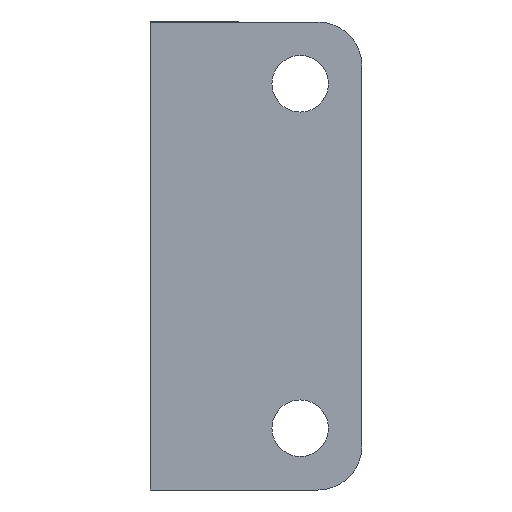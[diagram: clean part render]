
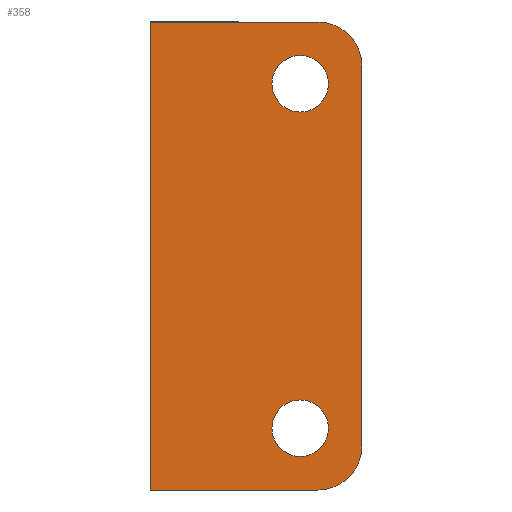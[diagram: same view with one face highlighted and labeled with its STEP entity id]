
A CAD part, front view. The second image highlights one B-rep face of the part: STEP entity #358.
In plain terms, the highlighted planar face has unit normal (0, -1, 0).
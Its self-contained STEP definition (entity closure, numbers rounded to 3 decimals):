
#17 = DIRECTION ( 'NONE',  ( 0., 1., 0. ) ) ;
#24 = CARTESIAN_POINT ( 'NONE',  ( 12., -149.75, 49.2 ) ) ;
#26 = CARTESIAN_POINT ( 'NONE',  ( 12., -149.75, 46. ) ) ;
#41 = ORIENTED_EDGE ( 'NONE', *, *, #364, .T. ) ;
#44 = ORIENTED_EDGE ( 'NONE', *, *, #469, .T. ) ;
#66 = LINE ( 'NONE', #170, #202 ) ;
#72 = CIRCLE ( 'NONE', #448, 3.2 ) ;
#78 = CARTESIAN_POINT ( 'NONE',  ( 12., -149.75, 46. ) ) ;
#91 = DIRECTION ( 'NONE',  ( -1., 0., 0. ) ) ;
#104 = FACE_BOUND ( 'NONE', #707, .T. ) ;
#114 = EDGE_CURVE ( 'NONE', #463, #806, #66, .T. ) ;
#122 = DIRECTION ( 'NONE',  ( 0., 0., -1. ) ) ;
#126 = CIRCLE ( 'NONE', #199, 5. ) ;
#127 = LINE ( 'NONE', #702, #373 ) ;
#128 = AXIS2_PLACEMENT_3D ( 'NONE', #26, #434, #838 ) ;
#133 = CARTESIAN_POINT ( 'NONE',  ( 12., -149.75, 7. ) ) ;
#170 = CARTESIAN_POINT ( 'NONE',  ( 19., -149.75, 0. ) ) ;
#175 = EDGE_CURVE ( 'NONE', #212, #814, #284, .T. ) ;
#177 = ORIENTED_EDGE ( 'NONE', *, *, #513, .T. ) ;
#190 = CARTESIAN_POINT ( 'NONE',  ( -5., -149.75, 53. ) ) ;
#193 = VERTEX_POINT ( 'NONE', #631 ) ;
#197 = CARTESIAN_POINT ( 'NONE',  ( -5., -149.75, 53. ) ) ;
#199 = AXIS2_PLACEMENT_3D ( 'NONE', #472, #883, #404 ) ;
#200 = CARTESIAN_POINT ( 'NONE',  ( 5., -149.75, 53. ) ) ;
#202 = VECTOR ( 'NONE', #230, 1000. ) ;
#208 = EDGE_LOOP ( 'NONE', ( #413, #177, #240, #500, #44, #473 ) ) ;
#212 = VERTEX_POINT ( 'NONE', #24 ) ;
#230 = DIRECTION ( 'NONE',  ( 0., 0., -1. ) ) ;
#235 = EDGE_CURVE ( 'NONE', #664, #238, #72, .T. ) ;
#237 = CARTESIAN_POINT ( 'NONE',  ( 12., -149.75, 3.8 ) ) ;
#238 = VERTEX_POINT ( 'NONE', #427 ) ;
#240 = ORIENTED_EDGE ( 'NONE', *, *, #114, .F. ) ;
#256 = DIRECTION ( 'NONE',  ( 0., -1., 0. ) ) ;
#260 = DIRECTION ( 'NONE',  ( 0., 0., 1. ) ) ;
#263 = EDGE_CURVE ( 'NONE', #814, #212, #759, .T. ) ;
#284 = CIRCLE ( 'NONE', #128, 3.2 ) ;
#292 = VECTOR ( 'NONE', #325, 1000. ) ;
#325 = DIRECTION ( 'NONE',  ( -1., 0., 0. ) ) ;
#335 = DIRECTION ( 'NONE',  ( 0., 0., 1. ) ) ;
#337 = AXIS2_PLACEMENT_3D ( 'NONE', #133, #541, #260 ) ;
#353 = DIRECTION ( 'NONE',  ( 0., 0., 1. ) ) ;
#356 = EDGE_CURVE ( 'NONE', #463, #193, #126, .T. ) ;
#358 = ADVANCED_FACE ( 'NONE', ( #685, #104, #465 ), #544, .F. ) ;
#364 = EDGE_CURVE ( 'NONE', #238, #664, #790, .T. ) ;
#369 = VERTEX_POINT ( 'NONE', #197 ) ;
#372 = VECTOR ( 'NONE', #122, 1000. ) ;
#373 = VECTOR ( 'NONE', #91, 1000. ) ;
#389 = AXIS2_PLACEMENT_3D ( 'NONE', #200, #815, #335 ) ;
#390 = CARTESIAN_POINT ( 'NONE',  ( -5., -149.75, 0. ) ) ;
#397 = CARTESIAN_POINT ( 'NONE',  ( 5., -149.75, 53. ) ) ;
#404 = DIRECTION ( 'NONE',  ( 0., 0., 1. ) ) ;
#413 = ORIENTED_EDGE ( 'NONE', *, *, #835, .F. ) ;
#422 = DIRECTION ( 'NONE',  ( 0., 0., 1. ) ) ;
#424 = CARTESIAN_POINT ( 'NONE',  ( 12., -149.75, 7. ) ) ;
#427 = CARTESIAN_POINT ( 'NONE',  ( 12., -149.75, 10.2 ) ) ;
#434 = DIRECTION ( 'NONE',  ( 0., 1., 0. ) ) ;
#435 = CARTESIAN_POINT ( 'NONE',  ( 12., -149.75, 42.8 ) ) ;
#448 = AXIS2_PLACEMENT_3D ( 'NONE', #424, #831, #353 ) ;
#463 = VERTEX_POINT ( 'NONE', #880 ) ;
#465 = FACE_OUTER_BOUND ( 'NONE', #208, .T. ) ;
#469 = EDGE_CURVE ( 'NONE', #193, #369, #866, .T. ) ;
#472 = CARTESIAN_POINT ( 'NONE',  ( 14., -149.75, 48. ) ) ;
#473 = ORIENTED_EDGE ( 'NONE', *, *, #542, .T. ) ;
#491 = AXIS2_PLACEMENT_3D ( 'NONE', #78, #17, #422 ) ;
#500 = ORIENTED_EDGE ( 'NONE', *, *, #356, .T. ) ;
#501 = CARTESIAN_POINT ( 'NONE',  ( 19., -149.75, 5. ) ) ;
#513 = EDGE_CURVE ( 'NONE', #574, #806, #820, .T. ) ;
#524 = AXIS2_PLACEMENT_3D ( 'NONE', #737, #256, #663 ) ;
#541 = DIRECTION ( 'NONE',  ( 0., 1., 0. ) ) ;
#542 = EDGE_CURVE ( 'NONE', #369, #569, #777, .T. ) ;
#544 = PLANE ( 'NONE',  #389 ) ;
#549 = ORIENTED_EDGE ( 'NONE', *, *, #235, .T. ) ;
#569 = VERTEX_POINT ( 'NONE', #390 ) ;
#574 = VERTEX_POINT ( 'NONE', #797 ) ;
#581 = ORIENTED_EDGE ( 'NONE', *, *, #175, .T. ) ;
#617 = ORIENTED_EDGE ( 'NONE', *, *, #263, .T. ) ;
#631 = CARTESIAN_POINT ( 'NONE',  ( 14., -149.75, 53. ) ) ;
#663 = DIRECTION ( 'NONE',  ( 0., 0., 1. ) ) ;
#664 = VERTEX_POINT ( 'NONE', #237 ) ;
#685 = FACE_BOUND ( 'NONE', #822, .T. ) ;
#702 = CARTESIAN_POINT ( 'NONE',  ( 5., -149.75, 0. ) ) ;
#707 = EDGE_LOOP ( 'NONE', ( #581, #617 ) ) ;
#737 = CARTESIAN_POINT ( 'NONE',  ( 14., -149.75, 5. ) ) ;
#759 = CIRCLE ( 'NONE', #491, 3.2 ) ;
#777 = LINE ( 'NONE', #190, #372 ) ;
#790 = CIRCLE ( 'NONE', #337, 3.2 ) ;
#797 = CARTESIAN_POINT ( 'NONE',  ( 14., -149.75, 0. ) ) ;
#806 = VERTEX_POINT ( 'NONE', #501 ) ;
#814 = VERTEX_POINT ( 'NONE', #435 ) ;
#815 = DIRECTION ( 'NONE',  ( 0., 1., 0. ) ) ;
#820 = CIRCLE ( 'NONE', #524, 5. ) ;
#822 = EDGE_LOOP ( 'NONE', ( #41, #549 ) ) ;
#831 = DIRECTION ( 'NONE',  ( 0., 1., 0. ) ) ;
#835 = EDGE_CURVE ( 'NONE', #574, #569, #127, .T. ) ;
#838 = DIRECTION ( 'NONE',  ( 0., 0., 1. ) ) ;
#866 = LINE ( 'NONE', #397, #292 ) ;
#880 = CARTESIAN_POINT ( 'NONE',  ( 19., -149.75, 48. ) ) ;
#883 = DIRECTION ( 'NONE',  ( 0., -1., 0. ) ) ;
